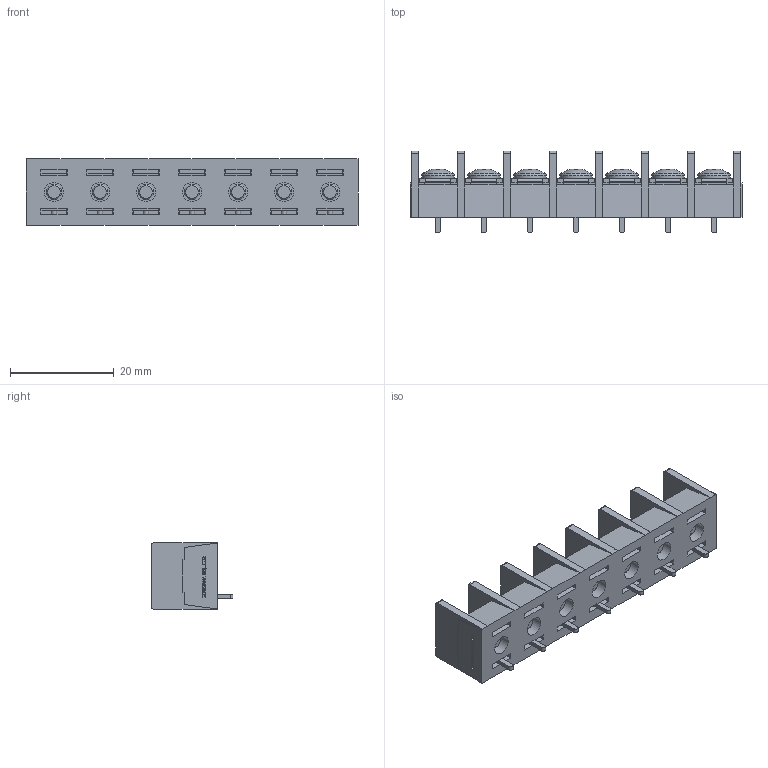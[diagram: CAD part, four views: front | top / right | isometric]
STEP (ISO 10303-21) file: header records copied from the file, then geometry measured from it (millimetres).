
FILE_DESCRIPTION(/* description */ ('Alibre Inc.'),/* implementation_level */ '2;1');
FILE_NAME(/* name */ 'export0',/* time_stamp */ '2015-10-20T19:42:26+09:00',/* author */ (''),/* organization */ (''),/* preprocessor_version */ 'ST-DEVELOPER v14',/* originating_system */ 'Alibre',/* authorisation */ '');
FILE_SCHEMA (('CONFIG_CONTROL_DESIGN'));
Length unit declared in the file: centimetre
Products named in the file (1): ID_1
Bounding box: 64.14 x 15.8 x 12.8 mm (x, y, z)
Volume: 5973.1 mm3; surface area: 7440.1 mm2
Topology: 1 solids, 120 shells, 2357 faces, 6059 edges, 4010 vertices
Faces by surface type: plane 1761, bspline 468, cylinder 72, cone 35, torus 14, sphere 7
Full cylindrical faces by diameter (mm): 3 x14, 3.7 x7, 4.6 x7, 6.3 x7
Entity records: 68134 total; most frequent: CARTESIAN_POINT 16534, ORIENTED_EDGE 11964, DIRECTION 7090, EDGE_CURVE 5982, VECTOR 4613, LINE 4613, VERTEX_POINT 3989, EDGE_LOOP 2579
